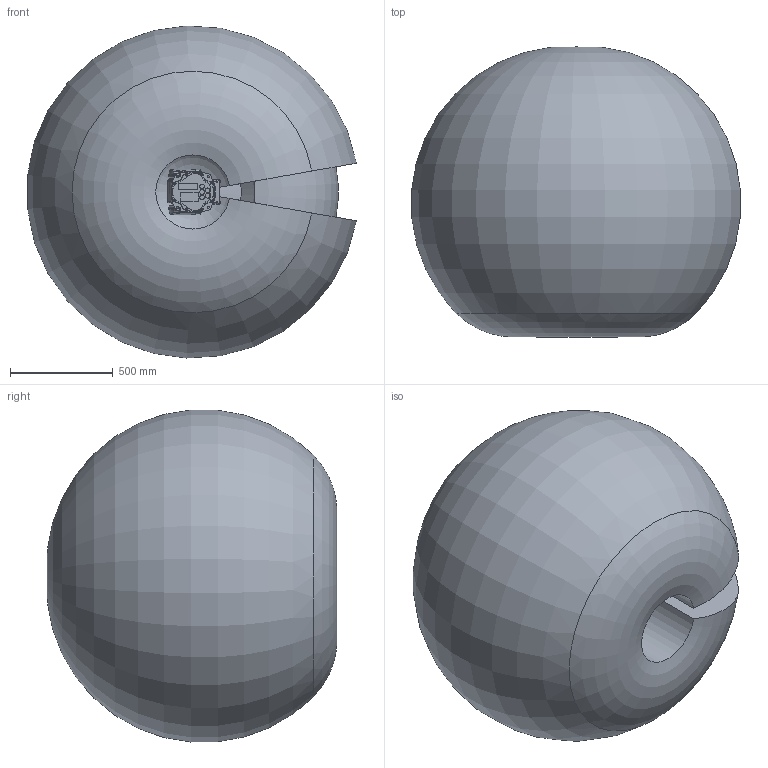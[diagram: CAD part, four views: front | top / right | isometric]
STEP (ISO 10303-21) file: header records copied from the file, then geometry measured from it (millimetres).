
FILE_DESCRIPTION (( 'STEP AP214' ), '1' );
FILE_NAME ('Racer5-0.80 SE (3D-STEP).STEP', '2022-05-23T09:43:58', ( '' ), ( '' ), 'SwSTEP 2.0', 'SolidWorks 2020', '' );
FILE_SCHEMA (( 'AUTOMOTIVE_DESIGN' ));
Length unit declared in the file: millimetre
Products named in the file (11): Racer5-0.80 SE_p06; Racer5-0.80 SE_p07; Racer5-0.80 SE_p08; Racer5-0.80 SE (3D-STEP); Racer5-0.80 SE_p04; Racer5-0.80 SE_p05; Operation Area Racer5-0.80 SE; Racer5-0.80 SE_p02; Racer5-0.80 SE_p01; Racer5-0.80 SE_p03; Racer5-0.80 SE_p09
Assembly tree (10 placements, depth 2):
  Racer5-0.80 SE (3D-STEP)
    Racer5-0.80 SE_p01
    Racer5-0.80 SE_p02
    Racer5-0.80 SE_p03
    Racer5-0.80 SE_p04
    Racer5-0.80 SE_p05
    Racer5-0.80 SE_p06
    Racer5-0.80 SE_p07
    Racer5-0.80 SE_p08
    Racer5-0.80 SE_p09
    Operation Area Racer5-0.80 SE
Bounding box: 1597.05 x 1408.23 x 1612.48 mm (x, y, z)
Volume: 1917712960 mm3; surface area: 11732707.5 mm2
Topology: 32 solids, 45 shells, 3915 faces, 9998 edges, 6250 vertices
Faces by surface type: bspline 1668, plane 1033, cylinder 791, torus 197, cone 162, sphere 64
Full cylindrical faces by diameter (mm): 1.5 x4, 1.6 x4, 2 x2, 2.424 x1, 2.434 x1, 2.5 x16, 2.577 x1, 3.117 x1, 3.3 x20, 3.4 x16, 3.578 x1, 4 x13, 4.2 x6, 4.3 x8, 4.5 x10, 5 x8, 5.2 x2, 5.46 x1, 5.5 x34, 6 x2, 6.5 x1, 6.954 x1, 7 x14, 8 x10, 8.717 x1, 9 x4, 9.7 x1, 10 x2, 10.2 x7, 10.92 x1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
Entity records: 493255 total; most frequent: CARTESIAN_POINT 409539, ORIENTED_EDGE 18417, DIRECTION 11620, EDGE_CURVE 9401, VERTEX_POINT 6101, AXIS2_PLACEMENT_3D 4744, EDGE_LOOP 4655, B_SPLINE_CURVE_WITH_KNOTS 4614
